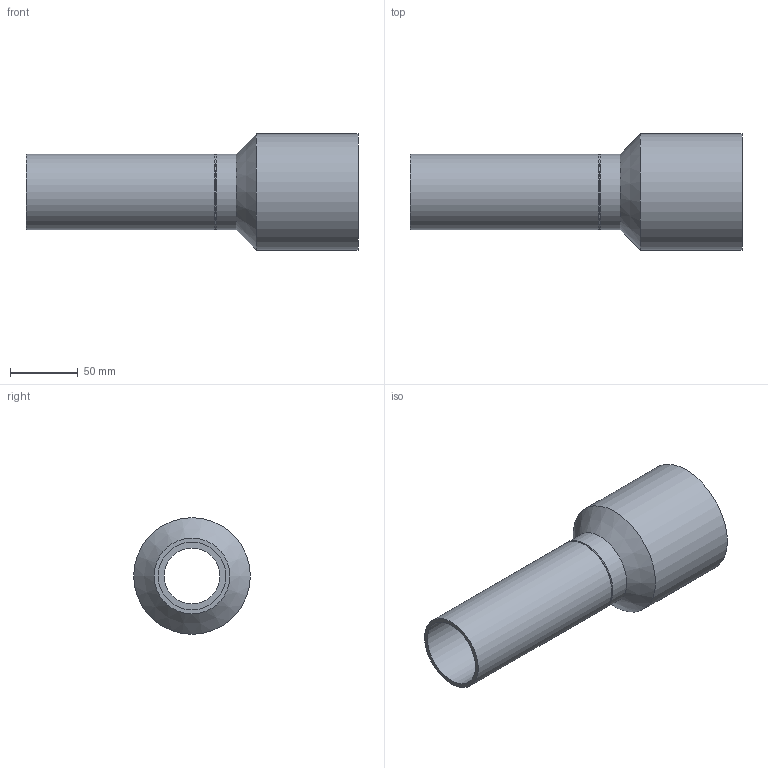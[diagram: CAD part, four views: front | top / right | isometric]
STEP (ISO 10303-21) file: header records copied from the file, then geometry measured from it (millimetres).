
FILE_DESCRIPTION(/* description */ (''),/* implementation_level */ '2;1');
FILE_NAME(/* name */ 'Z:\Geberit\Export\NewStep\152150.stp',/* time_stamp */ '2014-03-31T08:23:09+02:00',/* author */ ('nelson'),/* organization */ (''),/* preprocessor_version */ 'ST-DEVELOPER v15.2',/* originating_system */ 'Autodesk Inventor 2014',/* authorisation */ '');
FILE_SCHEMA (('AUTOMOTIVE_DESIGN { 1 0 10303 214 3 1 1 }'));
Length unit declared in the file: millimetre
Products named in the file (1): 152150
Bounding box: 245 x 86 x 86 mm (x, y, z)
Volume: 152074.5 mm3; surface area: 101833 mm2
Topology: 1 solids, 1 shells, 13 faces, 23 edges, 13 vertices
Faces by surface type: cylinder 6, cone 4, plane 3
Full cylindrical faces by diameter (mm): 41 x1, 50 x1, 56 x2, 80 x1, 86 x1
Entity records: 289 total; most frequent: DIRECTION 54, CARTESIAN_POINT 40, AXIS2_PLACEMENT_3D 27, EDGE_LOOP 26, ORIENTED_EDGE 26, FACE_BOUND 14, CIRCLE 13, VERTEX_POINT 13
